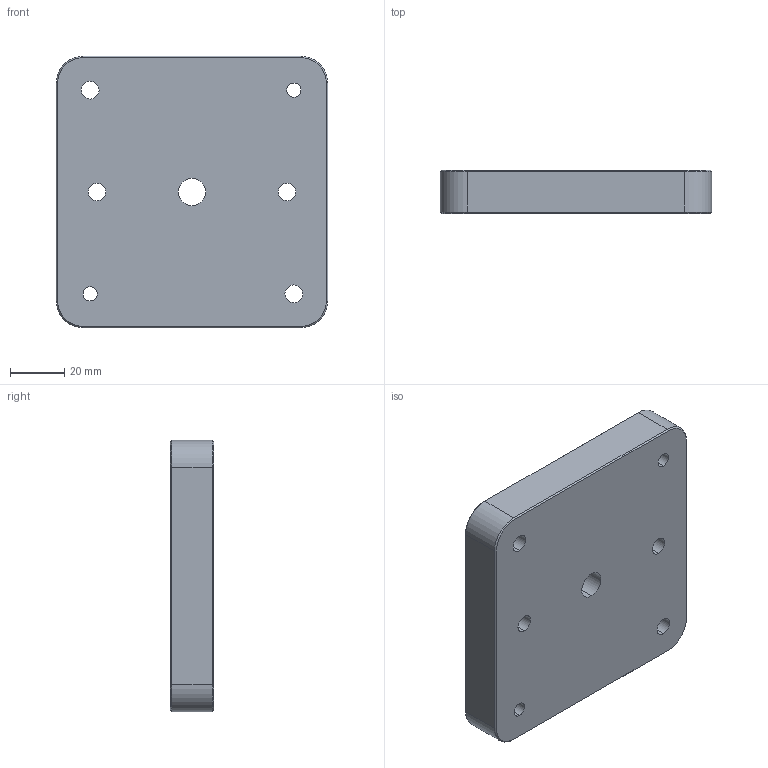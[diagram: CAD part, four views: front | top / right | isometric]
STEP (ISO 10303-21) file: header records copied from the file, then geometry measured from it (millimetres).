
FILE_DESCRIPTION (( 'STEP AP203' ), '1' );
FILE_NAME ('StackingRiser.STEP', '2025-03-11T00:33:59', ( '' ), ( '' ), 'SwSTEP 2.0', 'SolidWorks 2024', '' );
FILE_SCHEMA (( 'CONFIG_CONTROL_DESIGN' ));
Length unit declared in the file: millimetre
Products named in the file (1): StackingRiser
Bounding box: 100 x 16 x 100 mm (x, y, z)
Volume: 153107 mm3; surface area: 27791.2 mm2
Topology: 1 solids, 1 shells, 60 faces, 138 edges, 82 vertices
Faces by surface type: cone 22, cylinder 22, plane 16
Entity records: 1791 total; most frequent: DIRECTION 326, CARTESIAN_POINT 281, ORIENTED_EDGE 276, EDGE_CURVE 138, AXIS2_PLACEMENT_3D 127, VERTEX_POINT 82, EDGE_LOOP 76, LINE 72
